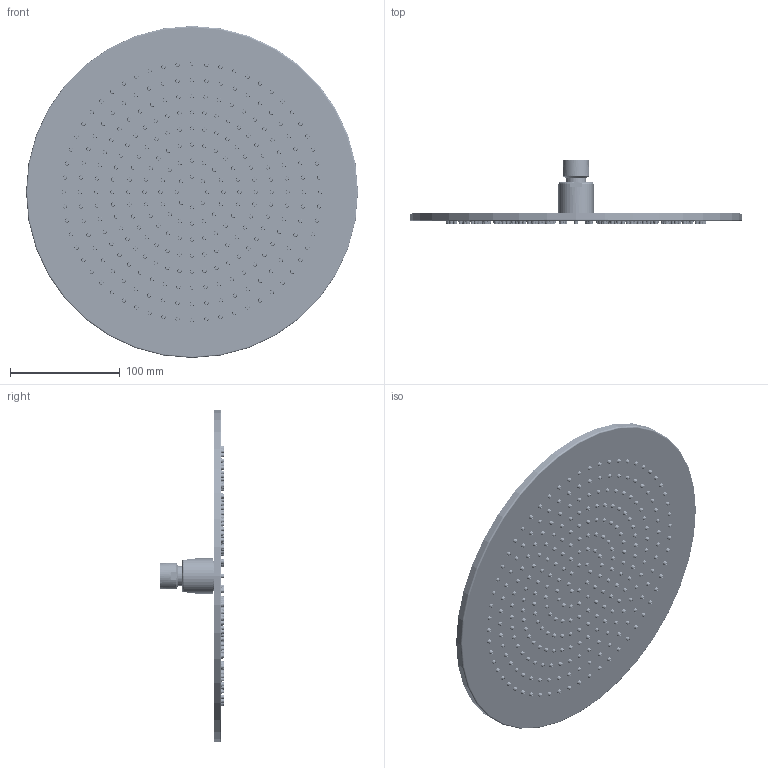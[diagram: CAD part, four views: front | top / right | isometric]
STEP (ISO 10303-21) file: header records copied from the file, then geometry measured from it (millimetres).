
FILE_DESCRIPTION((''),'2;1');
FILE_NAME('90726_ASM','2026-10-12T11:56:37',('carloff'),(''),'CREO PARAMETRIC BY PTC INC, 2025443','CREO PARAMETRIC BY PTC INC, 2025443','');
FILE_SCHEMA(('CONFIG_CONTROL_DESIGN'));
Length unit declared in the file: millimetre
Products named in the file (7): A527000183_C05; A527000183_C03; A527000183_C04; A527000183_C01; A527000183_C02; A527000183_ASM; 90726_ASM
Assembly tree (19 placements, depth 3):
  90726_ASM
    A527000183_ASM
      A527000183_C05
      A527000183_C03
      A527000183_C04
      A527000183_C01  x14
      A527000183_C02
Bounding box: 303 x 58.5 x 303 mm (x, y, z)
Volume: 349215.6 mm3; surface area: 472068.3 mm2
Topology: 18 solids, 18 shells, 3540 faces, 8002 edges, 5364 vertices
Faces by surface type: cylinder 1856, plane 996, cone 678, torus 10
Entity records: 97994 total; most frequent: DIRECTION 19342, CARTESIAN_POINT 16073, ORIENTED_EDGE 15068, AXIS2_PLACEMENT_3D 8425, EDGE_CURVE 7534, VERTEX_POINT 5052, CIRCLE 5036, EDGE_LOOP 4794
